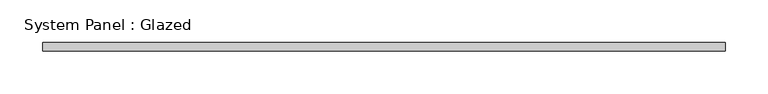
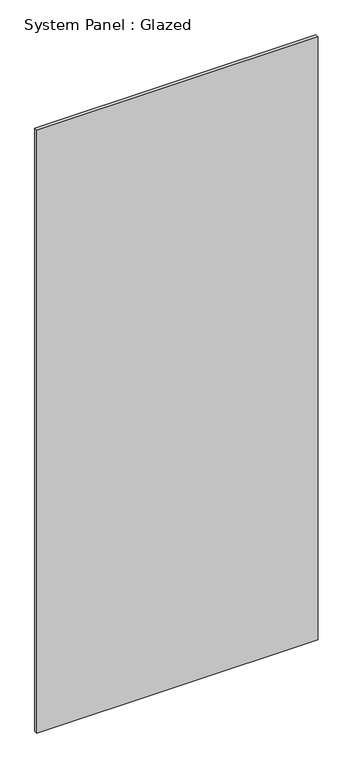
"""IFC4 building model written with IfcOpenShell, lengths in millimetres: plate geometry, System Panel : Glazed."""

from ifc_helpers import new_model, si_unit, origin, origin_with_axes, place, context, project, spatial, polyline, outline, extrude, source, transform, mapped, element, save


def system_panel_glazed_41f18cd1(model_context):
    return source(origin(), model_context, "Body", "SweptSolid", [
        extrude(outline(polyline([(398.3333333, -5.0), (-398.3333333, -5.0), (-398.3333333, 5.0), (398.3333333, 5.0), (398.3333333, -5.0)])), origin_with_axes(), (0.0, 0.0, 1.0), 1804.5549543),
    ])


if __name__ == "__main__":
    model = new_model("IFC4")
    model_context = context("Model", 3, world=origin())
    ifc_project = project(units=[si_unit("LENGTHUNIT", "METRE", prefix="MILLI")], contexts=[model_context])
    site = spatial("IfcSite", under=ifc_project)
    building = spatial("IfcBuilding", under=site)
    placement = place(None, origin())
    system_panel_glazed_shape = system_panel_glazed_41f18cd1(model_context)
    element("IfcPlate", 1, ObjectType="System Panel : Glazed", at=placement, inside=building, context=model_context, shape_type="MappedRepresentation", body=[
        mapped(system_panel_glazed_shape, transform((0.0, 0.0, 0.0), x_axis=(1.0, 0.0, 0.0), y_axis=(0.0, 1.0, 0.0), z_axis=(0.0, 0.0, 1.0))),
    ])
    save(model, "model.ifc")
